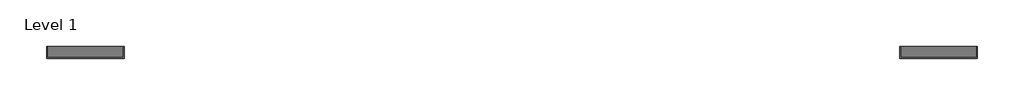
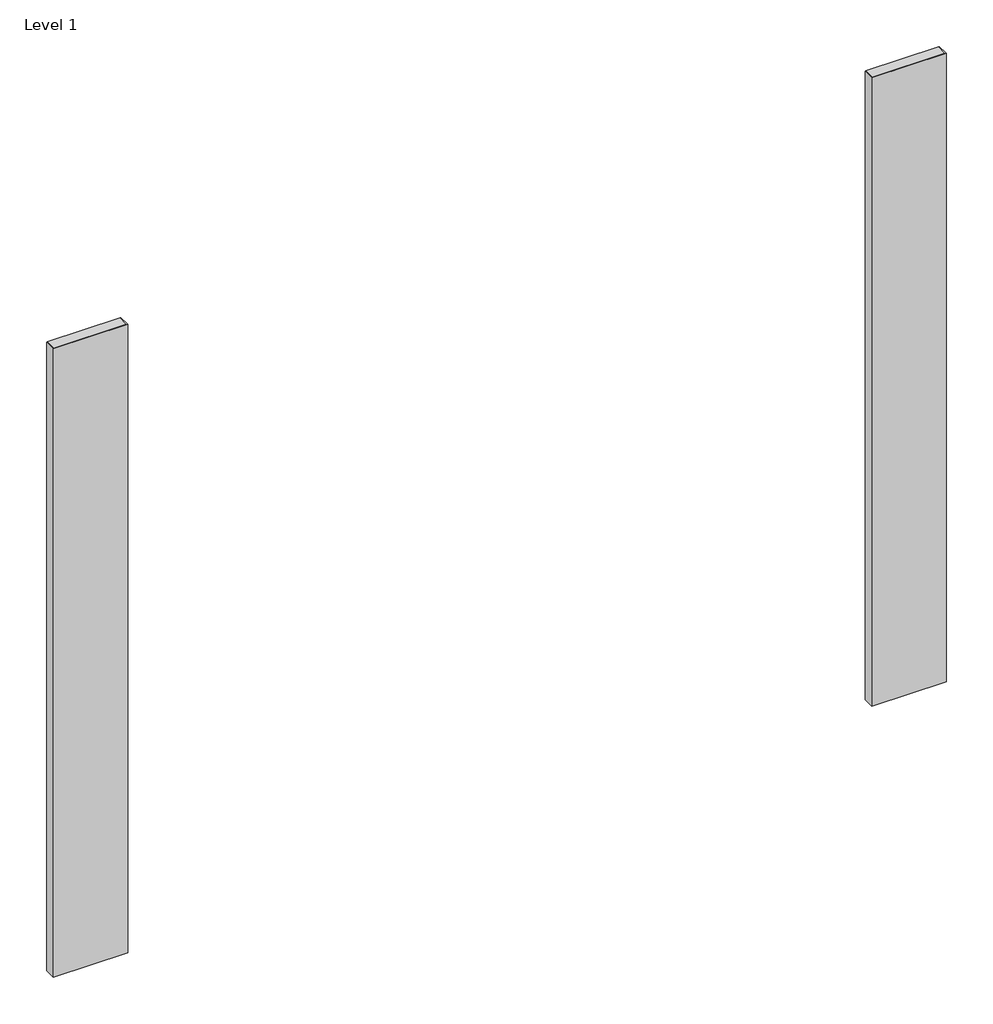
# One storey, incomplete: 2 proxies.
"""IFC4 building model written with IfcOpenShell, lengths in millimetres."""

from ifc_helpers import new_model, si_unit, origin, place, context, project, spatial, transform, mapped, element, save
from components import side_extension_panels_52d0bc55

model = new_model("IFC4")

# Units and contexts
model_context = context("Model", 3, world=origin())
ifc_project = project(units=[si_unit("LENGTHUNIT", "METRE", prefix="MILLI")], contexts=[model_context])

# Site, building, storey
site = spatial("IfcSite", under=ifc_project)
building = spatial("IfcBuilding", under=site)
storey = spatial("IfcBuildingStorey", under=building, Name="Level 1", Elevation=0.0)

# Proxies
placement = place(None, origin())
side_extension_panels_shape = side_extension_panels_52d0bc55(model_context)
element("IfcBuildingElementProxy", 1, Name="Spinneybeck_Drift : Side Extension Panels", ObjectType="Spinneybeck_Drift : Side Extension Panels", at=placement, inside=storey, context=model_context, shape_type="MappedRepresentation", body=[
    mapped(side_extension_panels_shape, transform((-9347.2111668, 1400.2325001, 134.3340037), x_axis=(1.0, 0.0, 0.0), y_axis=(0.0, 0.0, 1.0), z_axis=(0.0, -1.0, 0.0))),
])
element("IfcBuildingElementProxy", 2, Name="Spinneybeck_Drift : Side Extension Panels", ObjectType="Spinneybeck_Drift : Side Extension Panels", at=placement, inside=storey, context=model_context, shape_type="MappedRepresentation", body=[
    mapped(side_extension_panels_shape, transform((-12350.7111668, 1400.2325001, 134.3340037), x_axis=(1.0, 0.0, 0.0), y_axis=(0.0, 0.0, 1.0), z_axis=(0.0, -1.0, 0.0))),
])

save(model, "model.ifc")
